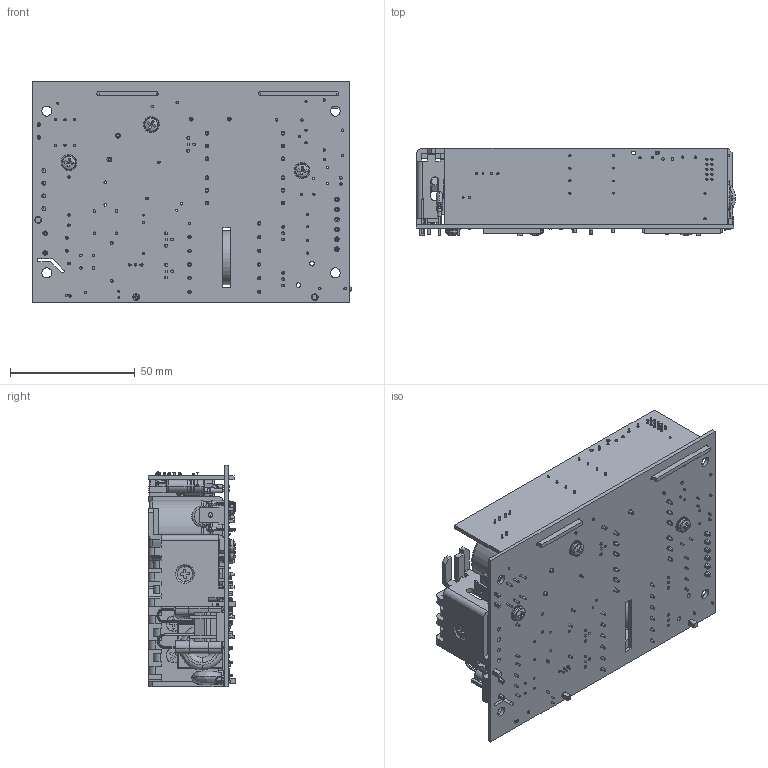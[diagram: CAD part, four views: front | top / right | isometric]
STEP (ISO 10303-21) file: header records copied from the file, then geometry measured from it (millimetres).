
FILE_DESCRIPTION (( 'STEP AP214' ), '1' );
FILE_NAME ('GCS265 STEP.STEP', '2015-05-26T13:52:16', ( '' ), ( '' ), 'SwSTEP 2.0', 'SolidWorks 2015', '' );
FILE_SCHEMA (( 'AUTOMOTIVE_DESIGN' ));
Length unit declared in the file: inch
Products named in the file (79): Capacitor Film_18x11mm_15 LS_19mm H; 10016235A0; EFD20-2-10P; Xfmr_GCS150_24; GCS265-ASSY; Screw_Sq Cone_no 4_01_.250; 10015962A0; Xfmr_GCS150_2; Choke Output Rod; CAP FILM_17x5x11MM_15LS; GCS265 STEP; Screw_Flat Head Phillips (Metric)_(1315)_M3 x 10; Xfmr_GCS150_3; Choke Output Rod_2; FUSE-0; Screw_Flat Head Phillips (Metric)_(1314)_M3 x 8; Xfmr_GCS150_12; Choke Output Rod_3; Inductor Toroid_20.0mm OD_10mm Width; Xfmr_GCS150_21; Inductor Toroid_18.0mm OD_7mm Width; Nut_Keps_4-40_Star_01; Xfmr_GCS150_6; Choke Output Rod_5; TO92_01; Conn_MLX_KK100_Hdr_02P; Xfmr_GCS150_7; Choke Output Rod_4; Capacitor Elec_25mm D_30mm H; Capacitor Elec_10mm D_25mm; Xfmr_GCS150_9; Choke Output Rod_6; Capacitor Disc_0.300 D X .40 LS; TO220_3P_01; Xfmr_GCS150_22; GCS265 5V STDBY; Faston .25 X .032; Capacitor Elec_08mm D_13mm H; Xfmr_GCS150_5; Capacitor Elec_06.3mm D_H_11mm H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
Assembly tree (105 placements, depth 6):
  GCS265 STEP
    GCS265 W BASE A2
      GCS265-ASSY
        10016235A0
        1001510303
        1001510201
        1001626201
        L4
        Xfmr_GCS150
          Xfmr_GCS150_17
          Xfmr_GCS150_4
          Xfmr_GCS150_16
          Xfmr_GCS150_18
          Xfmr_GCS150_13
          Xfmr_GCS150_5
          Xfmr_GCS150_22
          Xfmr_GCS150_9
          Xfmr_GCS150_7
          Xfmr_GCS150_6
          Xfmr_GCS150_21
          Xfmr_GCS150_12
          Xfmr_GCS150_3
          Xfmr_GCS150_2
          Xfmr_GCS150_24
          Xfmr_GCS150
          Xfmr_GCS150_20
          Xfmr_GCS150_8
          Xfmr_GCS150_10
          Xfmr_GCS150_23
          Xfmr_GCS150_15
          Xfmr_GCS150_14
          Xfmr_GCS150_11
          Xfmr_GCS150_19
        Faston .25 X .032
        Capacitor Disc_0.300 D X .40 LS  x3
        Capacitor Elec_25mm D_30mm H
        TO92_01
        Inductor Toroid_18.0mm OD_7mm Width  x2
        Inductor Toroid_20.0mm OD_10mm Width
        FUSE-0  x2
        CAP FILM_17x5x11MM_15LS  x2
        Screw_Sq Cone_no 4_01_.250  x3
        Capacitor Film_18x11mm_15 LS_19mm H
        CON MLX  .156 3P
        CON MLX  .156 06P
        Pot_Top adj_Type1_01
        Diode_DO201AD_H1
        CAP FILM_17x11x21MM_15LS
        Capacitor Elec_05mm D_11mm H
        MOV-S10K140E2
        Bridge Rectifier_GBU6K_Lead trimed
        Capacitor Disc_0.500 D_0.400 C  x4
        Capacitor Elec_08mm D_13mm H
        TO220_3P_01  x5
        Capacitor Elec_10mm D_25mm  x3
        Conn_MLX_KK100_Hdr_02P
        Nut_Keps_4-40_Star_01  x6
        Screw_Flat Head Phillips (Metric)_(1314)_M3 x 8  x5
        Screw_Flat Head Phillips (Metric)_(1315)_M3 x 10
        GCS265 5V STDBY
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Bounding box: 127.76 x 34.93 x 88.9 mm (x, y, z)
Volume: 126217.1 mm3; surface area: 98911.1 mm2
Topology: 99 solids, 116 shells, 3859 faces, 9656 edges, 6149 vertices
Faces by surface type: plane 1975, cylinder 1122, bspline 482, cone 280
Entity records: 125109 total; most frequent: CARTESIAN_POINT 23292, DIRECTION 13428, ORIENTED_EDGE 13092, EDGE_CURVE 6546, AXIS2_PLACEMENT_3D 4721, VERTEX_POINT 4221, VECTOR 3986, LINE 3986
